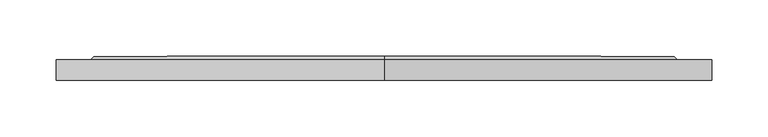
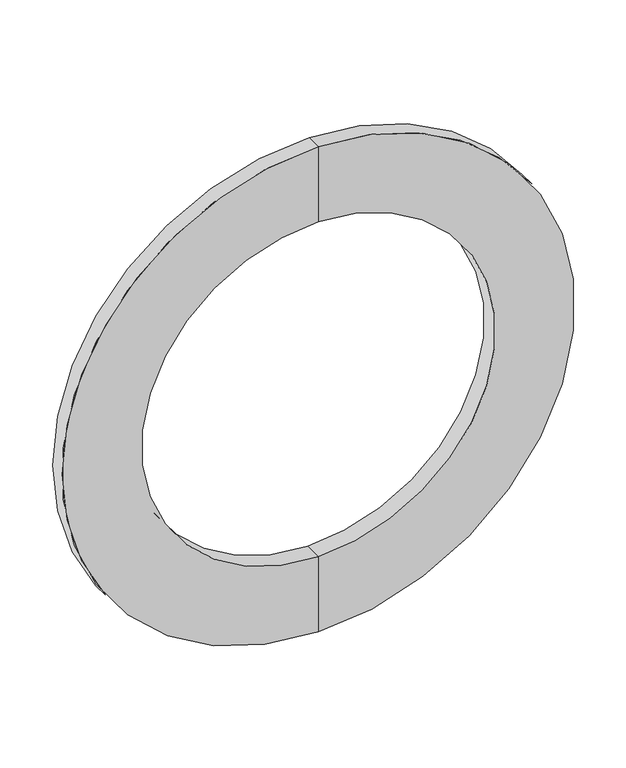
"""IFC4 building model written with IfcOpenShell, lengths in millimetres: pipe fitting geometry, Фланец : Фланец."""

from ifc_helpers import new_model, si_unit, frame, origin, place, context, project, spatial, polyline, circle_curve, source, transform, mapped, element, save
from ifc_brep_helpers import plane_surface, cylinder_surface, revolved_surface, advanced_brep


def pipe_fitting_f1d31873(model_context):
    return source(origin(), model_context, "Body", "AdvancedBrep", [
        advanced_brep(
        [(0.0, 0.0, -290.0), (0.0, 0.0, 290.0), (0.0, 18.0, 290.0), (0.0, 18.0, -290.0), (0.0, 0.0, -200.0), (0.0, 0.0, 200.0), (0.0, 21.0, -200.0), (0.0, 21.0, 200.0), (0.0, 21.0, -258.5), (0.0, 21.0, 258.5), (0.0, 18.0, -261.0), (0.0, 18.0, 261.0)],
        [
            (0, 1, circle_curve(frame((0.0, 0.0, 0.0), z_axis=(0.0, 1.0, 0.0), x_axis=(0.0, 0.0, 1.0)), 290.0)),
            (1, 2),
            (2, 3, circle_curve(frame((0.0, 18.0, 0.0), z_axis=(0.0, -1.0, 0.0), x_axis=(0.0, 0.0, 1.0)), 290.0)),
            (3, 0),
            (1, 0, circle_curve(frame((0.0, 0.0, 0.0), z_axis=(0.0, 1.0, 0.0), x_axis=(0.0, 0.0, 1.0)), 290.0)),
            (3, 2, circle_curve(frame((0.0, 18.0, 0.0), z_axis=(0.0, -1.0, 0.0), x_axis=(0.0, 0.0, 1.0)), 290.0)),
            (4, 5, circle_curve(frame((0.0, 0.0, 0.0), z_axis=(0.0, 1.0, 0.0), x_axis=(0.0, 0.0, 1.0)), 200.0)),
            (5, 1),
            (0, 4),
            (5, 4, circle_curve(frame((0.0, 0.0, 0.0), z_axis=(0.0, 1.0, 0.0), x_axis=(0.0, 0.0, 1.0)), 200.0)),
            (6, 7, circle_curve(frame((0.0, 21.0, 0.0), z_axis=(0.0, 1.0, 0.0), x_axis=(0.0, 0.0, 1.0)), 200.0)),
            (7, 5),
            (4, 6),
            (7, 6, circle_curve(frame((0.0, 21.0, 0.0), z_axis=(0.0, 1.0, 0.0), x_axis=(0.0, 0.0, 1.0)), 200.0)),
            (8, 9, circle_curve(frame((0.0, 21.0, 0.0), z_axis=(0.0, 1.0, 0.0), x_axis=(0.0, 0.0, 1.0)), 258.5)),
            (9, 7),
            (6, 8),
            (9, 8, circle_curve(frame((0.0, 21.0, 0.0), z_axis=(0.0, 1.0, 0.0), x_axis=(0.0, 0.0, 1.0)), 258.5)),
            (10, 11, circle_curve(frame((0.0, 18.0, 0.0), z_axis=(0.0, 1.0, 0.0), x_axis=(0.0, 0.0, 1.0)), 261.0)),
            (11, 9),
            (8, 10),
            (11, 10, circle_curve(frame((0.0, 18.0, 0.0), z_axis=(0.0, 1.0, 0.0), x_axis=(0.0, 0.0, 1.0)), 261.0)),
            (2, 11),
            (10, 3),
        ],
        [
            cylinder_surface(frame((0.0, -60.0, 0.0), z_axis=(0.0, -1.0, 0.0), x_axis=(0.0, 0.0, 1.0)), 290.0),
            plane_surface(frame((0.0, 0.0, 0.0), z_axis=(0.0, -1.0, 0.0), x_axis=(0.0, 0.0, 1.0))),
            revolved_surface(polyline([(0.0, 0.0, 200.0), (0.0, 21.0, 200.0)]), (0.0, -60.0, 0.0), (0.0, -1.0, 0.0)),
            plane_surface(frame((0.0, 21.0, 0.0), z_axis=(0.0, 1.0, 0.0), x_axis=(0.0, 0.0, 1.0))),
            revolved_surface(polyline([(0.0, 21.0, 258.5), (0.0, 18.0, 261.0)]), (0.0, -60.0, 0.0), (0.0, -1.0, 0.0)),
            plane_surface(frame((0.0, 18.0, 0.0), z_axis=(0.0, 1.0, 0.0), x_axis=(0.0, 0.0, 1.0))),
        ],
        [
            (0, [[1, 2, 3, 4]]),
            (0, [[5, -4, 6, -2]]),
            (1, [[7, 8, -1, 9]]),
            (1, [[10, -9, -5, -8]]),
            (2, [[11, 12, -7, 13]]),
            (2, [[14, -13, -10, -12]]),
            (3, [[15, 16, -11, 17]]),
            (3, [[18, -17, -14, -16]]),
            (4, [[19, 20, -15, 21]]),
            (4, [[22, -21, -18, -20]]),
            (5, [[-3, 23, -19, 24]]),
            (5, [[-6, -24, -22, -23]]),
        ],
    ),
    ])


if __name__ == "__main__":
    model = new_model("IFC4")
    model_context = context("Model", 3, world=origin())
    ifc_project = project(units=[si_unit("LENGTHUNIT", "METRE", prefix="MILLI")], contexts=[model_context])
    site = spatial("IfcSite", under=ifc_project)
    building = spatial("IfcBuilding", under=site)
    placement = place(None, origin())
    pipe_fitting_shape = pipe_fitting_f1d31873(model_context)
    element("IfcPipeFitting", 1, ObjectType="Фланец : Фланец", at=placement, inside=building, context=model_context, shape_type="MappedRepresentation", body=[
        mapped(pipe_fitting_shape, transform((0.0, 0.0, 0.0), x_axis=(1.0, 0.0, 0.0), y_axis=(0.0, 1.0, 0.0), z_axis=(0.0, 0.0, 1.0))),
    ])
    save(model, "model.ifc")
